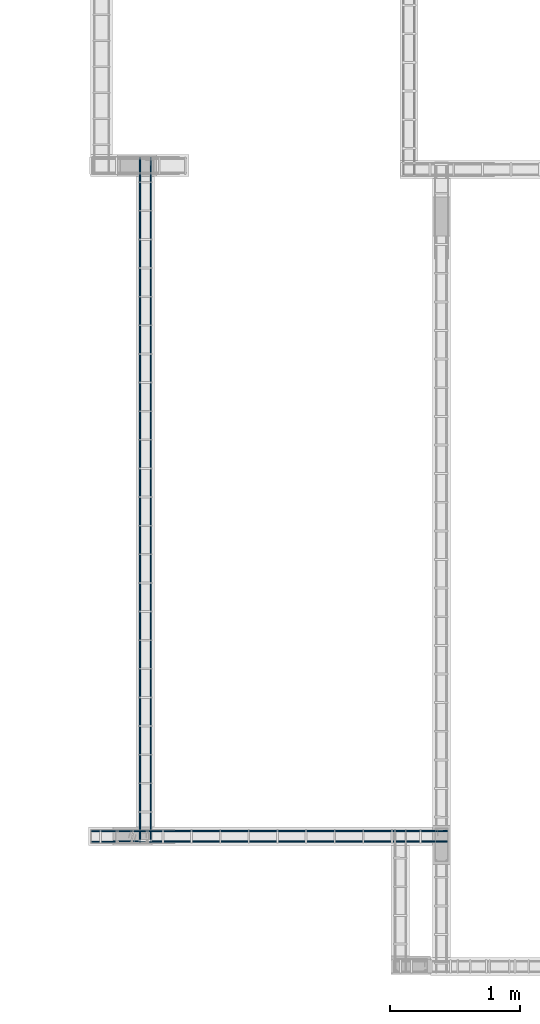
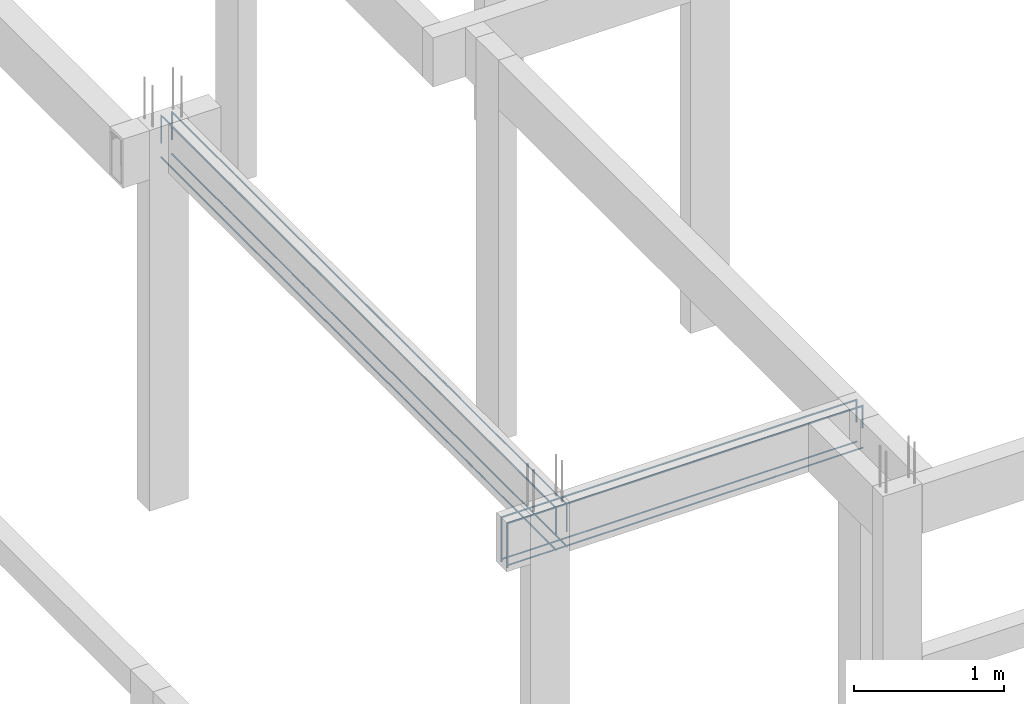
# One storey, part 10 of 236: 8 reinforcing bars.
"""IFC4 building model written with IfcOpenShell, lengths in centimetres."""

from ifc_helpers import new_model, entity, si_unit, derived_unit, frame, origin_with_axes, place, context, project, spatial, element, save


model = new_model("IFC4")

# Units and contexts
model_context = context("Model", 3, precision=1e-05, world=origin_with_axes(), identifier="Body")
ifc_project = project(units=[si_unit("LENGTHUNIT", "METRE", prefix="CENTI"), si_unit("VOLUMEUNIT", "CUBIC_METRE"), si_unit("AREAUNIT", "SQUARE_METRE"), si_unit("POWERUNIT", "WATT"), si_unit("LUMINOUSFLUXUNIT", "LUMEN"), si_unit("ELECTRICCURRENTUNIT", "AMPERE"), si_unit("PRESSUREUNIT", "PASCAL", prefix="KILO"), si_unit("MASSUNIT", "GRAM", prefix="KILO"), si_unit("PLANEANGLEUNIT", "RADIAN"), derived_unit("VOLUMETRICFLOWRATEUNIT", [(si_unit("LENGTHUNIT", "METRE"), 3), (si_unit("TIMEUNIT", "SECOND"), -1)])], contexts=[model_context])

# Site, building, storey
site_placement = place(None, frame((-4000.0, 0.0, 0.0), z_axis=(0.0, 0.0, 1.0), x_axis=(1.0, 0.0, 0.0)))
site = spatial("IfcSite", under=ifc_project, at=site_placement, Name="PADRÃO")
building_placement = place(site_placement, frame((0.0, 0.0, -14.0)))
building = spatial("IfcBuilding", under=site, at=building_placement, Name="CRECHE PRÉ-ESCOLA TIPO 2")
placement_1 = place(building_placement, origin_with_axes())
placement_2 = place(placement_1, frame((0.0, 0.0, 30.0), z_axis=(0.0, 0.0, 1.0), x_axis=(1.0, 0.0, 0.0)))
storey_placement = place(placement_2, frame((0.0, 0.0, 310.0), z_axis=(0.0, 0.0, 1.0), x_axis=(1.0, 0.0, 0.0)))
storey = spatial("IfcBuildingStorey", under=building, at=storey_placement, Name="TERREO", CompositionType="ELEMENT", Elevation=326.0)

# Reinforcing bars
for number, where, z_axis, x_axis, name in (
    (1, (371.535, 519.1, -36.7), (0.0, 0.0, 1.0), (1.0, 0.0, 0.0), "V253 - Longitudinal inferior"),
    (2, (371.535, 510.9, -36.7), (0.0, 0.0, 1.0), (1.0, 0.0, 0.0), "V253 - Longitudinal inferior"),
):
    element("IfcReinforcingBar", number, at=place(storey_placement, frame(where, z_axis=z_axis, x_axis=x_axis)), inside=storey, Name=name, BarLength=0.0, CrossSectionArea=5.0265482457e-05, NominalDiameter=0.8, PredefinedType="MAIN", context=model_context, shape_type="AdvancedSweptSolid", body=[
        entity("IfcSweptDiskSolid", entity("IfcCompositeCurve", [entity("IfcCompositeCurveSegment", "CONTINUOUS", True, entity("IfcPolyline", [entity("IfcCartesianPoint", [-137.035, 0.0, -0.4]), entity("IfcCartesianPoint", [137.035, 0.0, -0.4])]))], False), 0.4),
    ])
for number, where, z_axis, x_axis, name in (
    (3, (371.535, 511.0, -2.49531217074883), (0.0, 0.0, 1.0), (1.0, 0.0, 0.0), "V253 - Longitudinal superior"),
    (4, (371.535, 519.0, -2.49531217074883), (0.0, 0.0, 1.0), (1.0, 0.0, 0.0), "V253 - Longitudinal superior"),
):
    element("IfcReinforcingBar", number, at=place(storey_placement, frame(where, z_axis=z_axis, x_axis=x_axis)), inside=storey, Name=name, BarLength=0.0, CrossSectionArea=7.853981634e-05, NominalDiameter=1.0, PredefinedType="MAIN", context=model_context, shape_type="AdvancedSweptSolid", body=[
        entity("IfcSweptDiskSolid", entity("IfcCompositeCurve", [entity("IfcCompositeCurveSegment", "CONTINUOUS", True, entity("IfcPolyline", [entity("IfcCartesianPoint", [-136.535, 0.0, -36.5046878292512]), entity("IfcCartesianPoint", [-136.535, 0.0, -0.504687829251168])])), entity("IfcCompositeCurveSegment", "CONTINUOUS", True, entity("IfcPolyline", [entity("IfcCartesianPoint", [-136.535, 0.0, -0.504687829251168]), entity("IfcCartesianPoint", [136.535, 0.0, -0.504687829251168])])), entity("IfcCompositeCurveSegment", "CONTINUOUS", True, entity("IfcPolyline", [entity("IfcCartesianPoint", [136.535, 0.0, -0.504687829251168]), entity("IfcCartesianPoint", [136.535, 0.0, -18.3428579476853])]))], False), 0.5),
    ])
for number, where, z_axis, x_axis, name in (
    (5, (280.1, 773.5, -36.7), (0.0, 0.0, 1.0), (1.0, 0.0, 0.0), "V259 - Longitudinal inferior"),
    (6, (271.9, 773.5, -36.7), (0.0, 0.0, 1.0), (1.0, 0.0, 0.0), "V259 - Longitudinal inferior"),
):
    element("IfcReinforcingBar", number, at=place(storey_placement, frame(where, z_axis=z_axis, x_axis=x_axis)), inside=storey, Name=name, BarLength=0.0, CrossSectionArea=5.0265482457e-05, NominalDiameter=0.8, PredefinedType="MAIN", context=model_context, shape_type="AdvancedSweptSolid", body=[
        entity("IfcSweptDiskSolid", entity("IfcCompositeCurve", [entity("IfcCompositeCurveSegment", "CONTINUOUS", True, entity("IfcPolyline", [entity("IfcCartesianPoint", [0.0, -263.5, -0.4]), entity("IfcCartesianPoint", [0.0, 263.5, -0.4])]))], False), 0.4),
    ])
for number, where, z_axis, x_axis, name in (
    (7, (271.9, 773.5, -2.49624973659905), (0.0, 0.0, 1.0), (1.0, 0.0, 0.0), "V259 - Longitudinal superior"),
    (8, (280.1, 773.5, -2.49624973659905), (0.0, 0.0, 1.0), (1.0, 0.0, 0.0), "V259 - Longitudinal superior"),
):
    element("IfcReinforcingBar", number, at=place(storey_placement, frame(where, z_axis=z_axis, x_axis=x_axis)), inside=storey, Name=name, BarLength=0.0, CrossSectionArea=5.0265482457e-05, NominalDiameter=0.8, PredefinedType="MAIN", context=model_context, shape_type="AdvancedSweptSolid", body=[
        entity("IfcSweptDiskSolid", entity("IfcCompositeCurve", [entity("IfcCompositeCurveSegment", "CONTINUOUS", True, entity("IfcPolyline", [entity("IfcCartesianPoint", [0.0, -263.1, -22.7014629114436]), entity("IfcCartesianPoint", [0.0, -263.1, -0.403750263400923])])), entity("IfcCompositeCurveSegment", "CONTINUOUS", True, entity("IfcPolyline", [entity("IfcCartesianPoint", [0.0, -263.1, -0.403750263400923]), entity("IfcCartesianPoint", [0.0, 263.1, -0.403750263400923])])), entity("IfcCompositeCurveSegment", "CONTINUOUS", True, entity("IfcPolyline", [entity("IfcCartesianPoint", [0.0, 263.1, -0.403750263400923]), entity("IfcCartesianPoint", [0.0, 263.1, -22.7014629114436])]))], False), 0.4),
    ])

save(model, "model.ifc")
